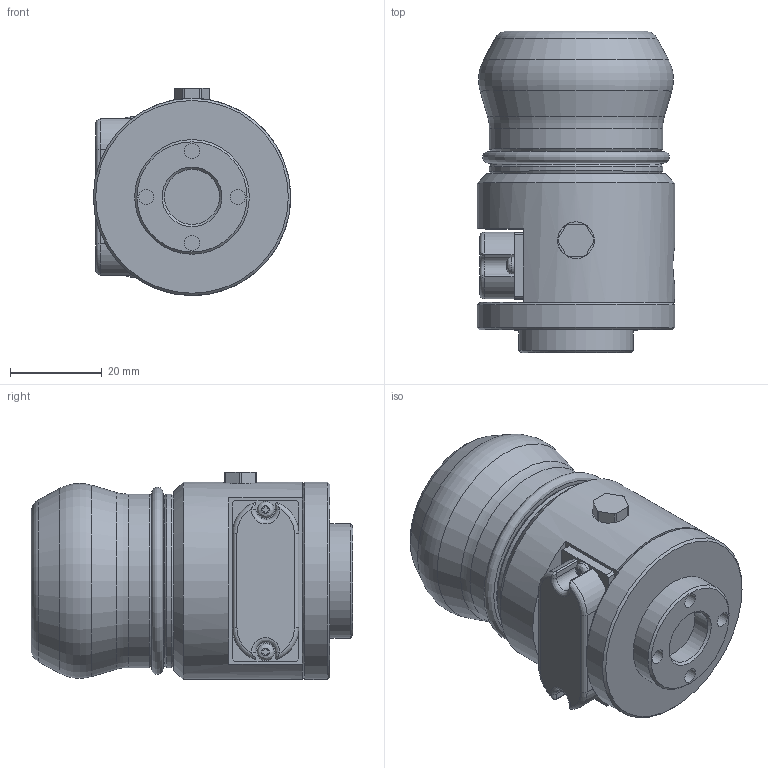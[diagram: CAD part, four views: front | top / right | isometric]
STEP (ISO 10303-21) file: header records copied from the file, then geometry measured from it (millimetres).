
FILE_DESCRIPTION(('STEP AP203'),'1');
FILE_NAME('SGB-001-0001(SGB-20).stp','2019-07-31T05:31:57',(' '),(' '),'Spatial InterOp 3D',' ',' ');
FILE_SCHEMA(('CONFIG_CONTROL_DESIGN'));
Length unit declared in the file: millimetre
Products named in the file (1): 1
Bounding box: 43 x 70.1 x 45.13 mm (x, y, z)
Volume: 79841.6 mm3; surface area: 17129.7 mm2
Topology: 1 solids, 1 shells, 188 faces, 445 edges, 277 vertices
Faces by surface type: plane 89, cylinder 59, torus 19, cone 14, bspline 7
Full cylindrical faces by diameter (mm): 3.3 x4, 3.7 x2, 4.134 x1, 6 x1, 7.359 x1, 8 x1, 10.2 x1, 11.5 x1, 12 x1, 17.965 x1, 18 x1, 25 x1, 37.8 x2, 43 x2
Entity records: 6247 total; most frequent: CARTESIAN_POINT 2090, DIRECTION 876, ORIENTED_EDGE 770, EDGE_CURVE 385, AXIS2_PLACEMENT_3D 344, VERTEX_POINT 271, EDGE_LOOP 260, FACE_OUTER_BOUND 224
